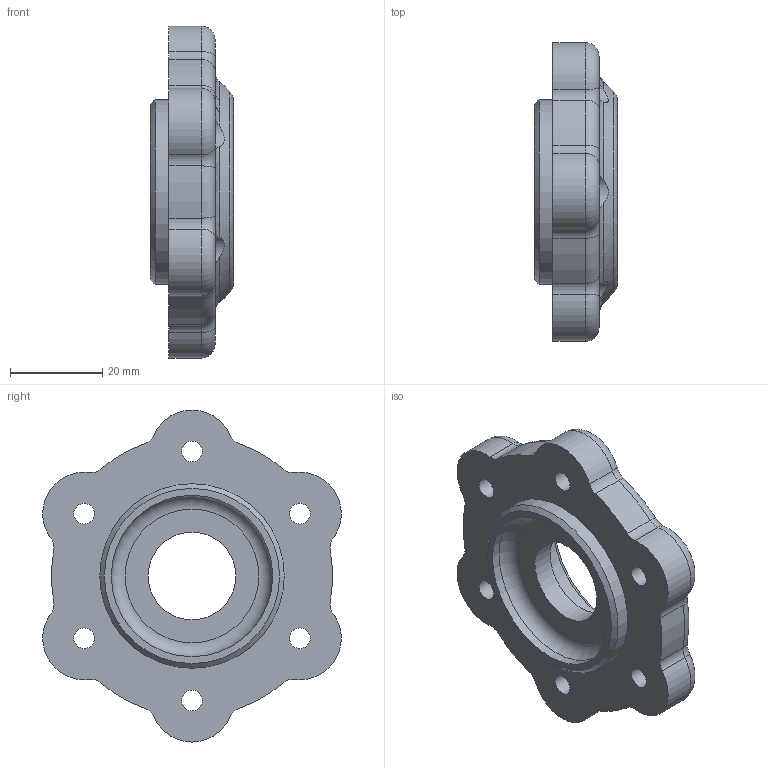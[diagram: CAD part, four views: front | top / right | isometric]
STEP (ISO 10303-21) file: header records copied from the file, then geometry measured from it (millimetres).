
FILE_DESCRIPTION(/* description */ (''),/* implementation_level */ '2;1');
FILE_NAME(/* name */ '',/* time_stamp */ '2026-04-27T11:12:06+09:00',/* author */ ('jhkim'),/* organization */ (''),/* preprocessor_version */ 'ST-DEVELOPER v20.1',/* originating_system */ 'Autodesk Inventor 2027',/* authorisation */ '');
FILE_SCHEMA (('AUTOMOTIVE_DESIGN { 1 0 10303 214 3 1 1 }'));
Length unit declared in the file: millimetre
Products named in the file (1): 커버
Bounding box: 18 x 64.76 x 72 mm (x, y, z)
Volume: 30283.2 mm3; surface area: 11213.8 mm2
Topology: 1 solids, 1 shells, 88 faces, 222 edges, 140 vertices
Faces by surface type: cylinder 40, torus 33, plane 12, cone 3
Full cylindrical faces by diameter (mm): 4.5 x6, 8 x6, 19 x1, 32 x1, 35 x1, 40 x1
Entity records: 2912 total; most frequent: CARTESIAN_POINT 613, DIRECTION 543, ORIENTED_EDGE 444, AXIS2_PLACEMENT_3D 250, EDGE_CURVE 222, CIRCLE 161, VERTEX_POINT 140, EDGE_LOOP 106
